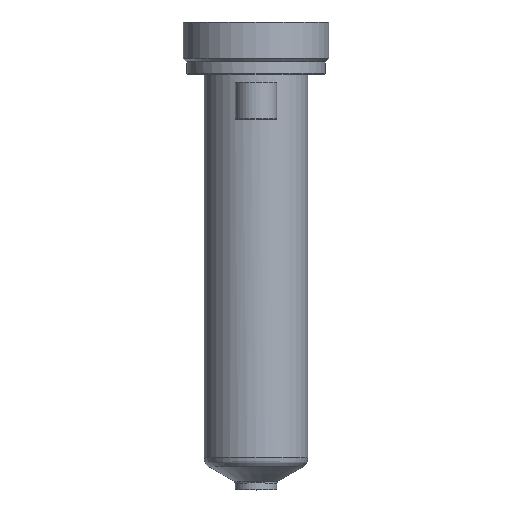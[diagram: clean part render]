
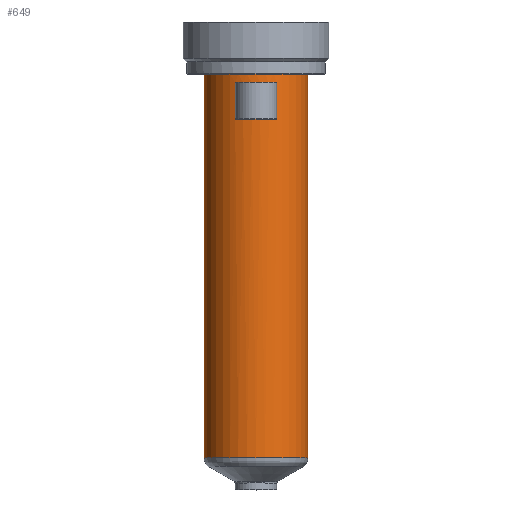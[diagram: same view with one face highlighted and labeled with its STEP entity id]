
A CAD part, top view. The second image highlights one B-rep face of the part: STEP entity #649.
In plain terms, the highlighted cylindrical face has radius 15 mm (diameter 30 mm), a partial arc.
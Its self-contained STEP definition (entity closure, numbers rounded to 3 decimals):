
#161=DIRECTION('',(0.,-1.,0.));
#162=VECTOR('',#161,110.783);
#163=CARTESIAN_POINT('',(15.,0.,0.));
#164=LINE('',#163,#162);
#165=CARTESIAN_POINT('',(0.,-110.783,0.));
#166=DIRECTION('',(0.,1.,0.));
#167=DIRECTION('',(-1.,0.,0.));
#168=AXIS2_PLACEMENT_3D('',#165,#166,#167);
#170=DIRECTION('',(0.,1.,0.));
#171=VECTOR('',#170,110.783);
#172=CARTESIAN_POINT('',(-15.,-110.783,0.));
#173=LINE('',#172,#171);
#174=CARTESIAN_POINT('',(0.,0.,0.));
#175=DIRECTION('',(0.,1.,0.));
#176=DIRECTION('',(-1.,0.,0.));
#177=AXIS2_PLACEMENT_3D('',#174,#175,#176);
#255=DIRECTION('',(0.,-1.,0.));
#256=VECTOR('',#255,10.5);
#257=CARTESIAN_POINT('',(-6.,-2.5,13.748));
#258=LINE('',#257,#256);
#263=CARTESIAN_POINT('',(0.,-13.,0.));
#264=DIRECTION('',(0.,1.,0.));
#265=DIRECTION('',(-0.4,0.,0.917));
#266=AXIS2_PLACEMENT_3D('',#263,#264,#265);
#298=CARTESIAN_POINT('',(0.,-2.5,0.));
#299=DIRECTION('',(0.,-1.,0.));
#300=DIRECTION('',(0.4,0.,0.917));
#301=AXIS2_PLACEMENT_3D('',#298,#299,#300);
#303=DIRECTION('',(0.,-1.,0.));
#304=VECTOR('',#303,10.5);
#305=CARTESIAN_POINT('',(6.,-2.5,13.748));
#306=LINE('',#305,#304);
#390=CARTESIAN_POINT('',(-15.,0.,0.));
#391=CARTESIAN_POINT('',(15.,0.,0.));
#392=VERTEX_POINT('',#390);
#393=VERTEX_POINT('',#391);
#402=CARTESIAN_POINT('',(6.,-2.5,13.748));
#403=VERTEX_POINT('',#402);
#404=CARTESIAN_POINT('',(-6.,-2.5,13.748));
#405=VERTEX_POINT('',#404);
#414=CARTESIAN_POINT('',(15.,-110.783,0.));
#415=VERTEX_POINT('',#414);
#424=CARTESIAN_POINT('',(-15.,-110.783,0.));
#425=VERTEX_POINT('',#424);
#426=CARTESIAN_POINT('',(-6.,-13.,13.748));
#427=CARTESIAN_POINT('',(6.,-13.,13.748));
#428=VERTEX_POINT('',#426);
#429=VERTEX_POINT('',#427);
#627=CARTESIAN_POINT('',(0.,16.4,0.));
#628=DIRECTION('',(0.,-1.,0.));
#629=DIRECTION('',(-1.,0.,0.));
#630=AXIS2_PLACEMENT_3D('',#627,#628,#629);
#631=CYLINDRICAL_SURFACE('',#630,15.);
#632=ORIENTED_EDGE('',*,*,#621,.T.);
#634=ORIENTED_EDGE('',*,*,#633,.F.);
#635=ORIENTED_EDGE('',*,*,#617,.T.);
#636=ORIENTED_EDGE('',*,*,#607,.T.);
#637=EDGE_LOOP('',(#632,#634,#635,#636));
#638=FACE_OUTER_BOUND('',#637,.F.);
#640=ORIENTED_EDGE('',*,*,#639,.T.);
#642=ORIENTED_EDGE('',*,*,#641,.T.);
#644=ORIENTED_EDGE('',*,*,#643,.F.);
#646=ORIENTED_EDGE('',*,*,#645,.T.);
#647=EDGE_LOOP('',(#640,#642,#644,#646));
#648=FACE_BOUND('',#647,.F.);
#649=ADVANCED_FACE('',(#638,#648),#631,.T.);
#169=CIRCLE('',#168,15.);
#178=CIRCLE('',#177,15.);
#267=CIRCLE('',#266,15.);
#302=CIRCLE('',#301,15.);
#607=EDGE_CURVE('',#392,#393,#178,.T.);
#617=EDGE_CURVE('',#425,#392,#173,.T.);
#621=EDGE_CURVE('',#393,#415,#164,.T.);
#633=EDGE_CURVE('',#425,#415,#169,.T.);
#639=EDGE_CURVE('',#405,#428,#258,.T.);
#641=EDGE_CURVE('',#428,#429,#267,.T.);
#643=EDGE_CURVE('',#403,#429,#306,.T.);
#645=EDGE_CURVE('',#403,#405,#302,.T.);
